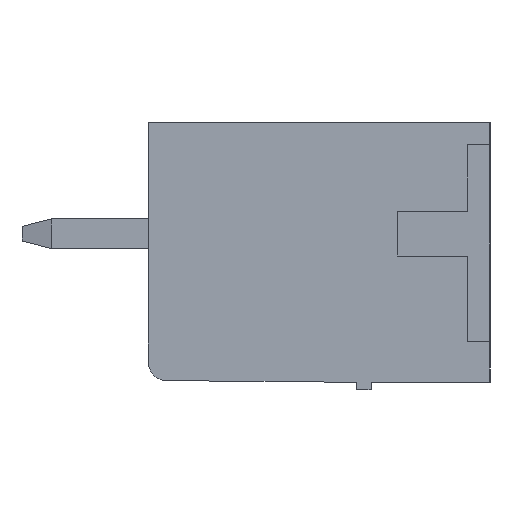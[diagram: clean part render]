
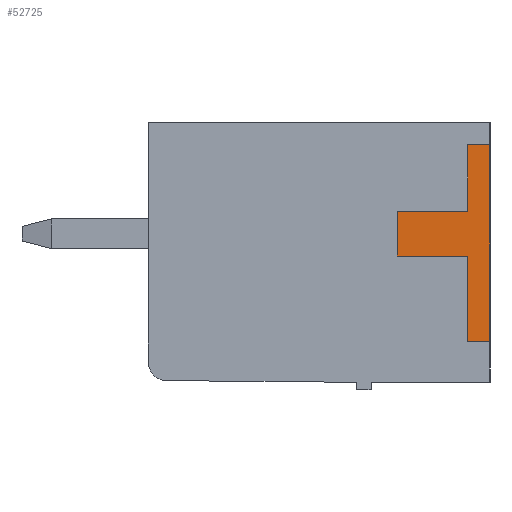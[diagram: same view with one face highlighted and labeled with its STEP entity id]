
A CAD part, left-side view. The second image highlights one B-rep face of the part: STEP entity #52725.
In plain terms, the highlighted planar face has unit normal (-1, 0, 0).
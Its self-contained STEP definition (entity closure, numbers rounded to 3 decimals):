
#100 = PLANE('',#101);
#101 = AXIS2_PLACEMENT_3D('',#102,#103,#104);
#102 = CARTESIAN_POINT('',(0.,0.,7.));
#103 = DIRECTION('',(0.,-1.,0.));
#104 = DIRECTION('',(0.,0.,-1.));
#128 = PLANE('',#129);
#129 = AXIS2_PLACEMENT_3D('',#130,#131,#132);
#130 = CARTESIAN_POINT('',(0.,0.,6.4));
#131 = DIRECTION('',(0.,0.,1.));
#132 = DIRECTION('',(0.,1.,0.));
#156 = PLANE('',#157);
#157 = AXIS2_PLACEMENT_3D('',#158,#159,#160);
#158 = CARTESIAN_POINT('',(0.,0.6,6.4));
#159 = DIRECTION('',(0.,1.,0.));
#160 = DIRECTION('',(0.,0.,-1.));
#184 = PLANE('',#185);
#185 = AXIS2_PLACEMENT_3D('',#186,#187,#188);
#186 = CARTESIAN_POINT('',(0.,0.6,4.6));
#187 = DIRECTION('',(0.,0.,1.));
#188 = DIRECTION('',(0.,1.,0.));
#212 = PLANE('',#213);
#213 = AXIS2_PLACEMENT_3D('',#214,#215,#216);
#214 = CARTESIAN_POINT('',(0.,2.5,4.6));
#215 = DIRECTION('',(0.,1.,0.));
#216 = DIRECTION('',(0.,0.,-1.));
#240 = PLANE('',#241);
#241 = AXIS2_PLACEMENT_3D('',#242,#243,#244);
#242 = CARTESIAN_POINT('',(0.,2.5,3.4));
#243 = DIRECTION('',(0.,0.,-1.));
#244 = DIRECTION('',(0.,-1.,0.));
#268 = PLANE('',#269);
#269 = AXIS2_PLACEMENT_3D('',#270,#271,#272);
#270 = CARTESIAN_POINT('',(0.,0.6,3.4));
#271 = DIRECTION('',(0.,1.,0.));
#272 = DIRECTION('',(0.,0.,-1.));
#296 = PLANE('',#297);
#297 = AXIS2_PLACEMENT_3D('',#298,#299,#300);
#298 = CARTESIAN_POINT('',(0.,0.6,1.1));
#299 = DIRECTION('',(0.,0.,-1.));
#300 = DIRECTION('',(0.,-1.,0.));
#6746 = VERTEX_POINT('',#6747);
#6747 = CARTESIAN_POINT('',(-0.2,0.,1.1));
#6768 = EDGE_CURVE('',#6746,#6769,#6771,.T.);
#6769 = VERTEX_POINT('',#6770);
#6770 = CARTESIAN_POINT('',(-0.2,0.,6.4));
#6771 = SURFACE_CURVE('',#6772,(#6776,#6783),.PCURVE_S1.);
#6772 = LINE('',#6773,#6774);
#6773 = CARTESIAN_POINT('',(-0.2,0.,1.1));
#6774 = VECTOR('',#6775,1.);
#6775 = DIRECTION('',(0.,0.,1.));
#6776 = PCURVE('',#100,#6777);
#6777 = DEFINITIONAL_REPRESENTATION('',(#6778),#6782);
#6778 = LINE('',#6779,#6780);
#6779 = CARTESIAN_POINT('',(5.9,-0.2));
#6780 = VECTOR('',#6781,1.);
#6781 = DIRECTION('',(-1.,0.));
#6782 = ( GEOMETRIC_REPRESENTATION_CONTEXT(2) 
PARAMETRIC_REPRESENTATION_CONTEXT() REPRESENTATION_CONTEXT('2D SPACE',''
  ) );
#6783 = PCURVE('',#6784,#6789);
#6784 = PLANE('',#6785);
#6785 = AXIS2_PLACEMENT_3D('',#6786,#6787,#6788);
#6786 = CARTESIAN_POINT('',(-0.2,0.,0.));
#6787 = DIRECTION('',(-1.,0.,0.));
#6788 = DIRECTION('',(0.,0.,1.));
#6789 = DEFINITIONAL_REPRESENTATION('',(#6790),#6794);
#6790 = LINE('',#6791,#6792);
#6791 = CARTESIAN_POINT('',(1.1,0.));
#6792 = VECTOR('',#6793,1.);
#6793 = DIRECTION('',(1.,0.));
#6794 = ( GEOMETRIC_REPRESENTATION_CONTEXT(2) 
PARAMETRIC_REPRESENTATION_CONTEXT() REPRESENTATION_CONTEXT('2D SPACE',''
  ) );
#52410 = VERTEX_POINT('',#52411);
#52411 = CARTESIAN_POINT('',(-0.2,0.6,1.1));
#52432 = EDGE_CURVE('',#52410,#6746,#52433,.T.);
#52433 = SURFACE_CURVE('',#52434,(#52438,#52445),.PCURVE_S1.);
#52434 = LINE('',#52435,#52436);
#52435 = CARTESIAN_POINT('',(-0.2,0.6,1.1));
#52436 = VECTOR('',#52437,1.);
#52437 = DIRECTION('',(0.,-1.,0.));
#52438 = PCURVE('',#296,#52439);
#52439 = DEFINITIONAL_REPRESENTATION('',(#52440),#52444);
#52440 = LINE('',#52441,#52442);
#52441 = CARTESIAN_POINT('',(0.,0.2));
#52442 = VECTOR('',#52443,1.);
#52443 = DIRECTION('',(1.,0.));
#52444 = ( GEOMETRIC_REPRESENTATION_CONTEXT(2) 
PARAMETRIC_REPRESENTATION_CONTEXT() REPRESENTATION_CONTEXT('2D SPACE',''
  ) );
#52445 = PCURVE('',#6784,#52446);
#52446 = DEFINITIONAL_REPRESENTATION('',(#52447),#52451);
#52447 = LINE('',#52448,#52449);
#52448 = CARTESIAN_POINT('',(1.1,0.6));
#52449 = VECTOR('',#52450,1.);
#52450 = DIRECTION('',(0.,-1.));
#52451 = ( GEOMETRIC_REPRESENTATION_CONTEXT(2) 
PARAMETRIC_REPRESENTATION_CONTEXT() REPRESENTATION_CONTEXT('2D SPACE',''
  ) );
#52459 = VERTEX_POINT('',#52460);
#52460 = CARTESIAN_POINT('',(-0.2,0.6,3.4));
#52481 = EDGE_CURVE('',#52459,#52410,#52482,.T.);
#52482 = SURFACE_CURVE('',#52483,(#52487,#52494),.PCURVE_S1.);
#52483 = LINE('',#52484,#52485);
#52484 = CARTESIAN_POINT('',(-0.2,0.6,3.4));
#52485 = VECTOR('',#52486,1.);
#52486 = DIRECTION('',(0.,0.,-1.));
#52487 = PCURVE('',#268,#52488);
#52488 = DEFINITIONAL_REPRESENTATION('',(#52489),#52493);
#52489 = LINE('',#52490,#52491);
#52490 = CARTESIAN_POINT('',(0.,0.2));
#52491 = VECTOR('',#52492,1.);
#52492 = DIRECTION('',(1.,0.));
#52493 = ( GEOMETRIC_REPRESENTATION_CONTEXT(2) 
PARAMETRIC_REPRESENTATION_CONTEXT() REPRESENTATION_CONTEXT('2D SPACE',''
  ) );
#52494 = PCURVE('',#6784,#52495);
#52495 = DEFINITIONAL_REPRESENTATION('',(#52496),#52500);
#52496 = LINE('',#52497,#52498);
#52497 = CARTESIAN_POINT('',(3.4,0.6));
#52498 = VECTOR('',#52499,1.);
#52499 = DIRECTION('',(-1.,0.));
#52500 = ( GEOMETRIC_REPRESENTATION_CONTEXT(2) 
PARAMETRIC_REPRESENTATION_CONTEXT() REPRESENTATION_CONTEXT('2D SPACE',''
  ) );
#52508 = VERTEX_POINT('',#52509);
#52509 = CARTESIAN_POINT('',(-0.2,2.5,3.4));
#52530 = EDGE_CURVE('',#52508,#52459,#52531,.T.);
#52531 = SURFACE_CURVE('',#52532,(#52536,#52543),.PCURVE_S1.);
#52532 = LINE('',#52533,#52534);
#52533 = CARTESIAN_POINT('',(-0.2,2.5,3.4));
#52534 = VECTOR('',#52535,1.);
#52535 = DIRECTION('',(0.,-1.,0.));
#52536 = PCURVE('',#240,#52537);
#52537 = DEFINITIONAL_REPRESENTATION('',(#52538),#52542);
#52538 = LINE('',#52539,#52540);
#52539 = CARTESIAN_POINT('',(0.,0.2));
#52540 = VECTOR('',#52541,1.);
#52541 = DIRECTION('',(1.,0.));
#52542 = ( GEOMETRIC_REPRESENTATION_CONTEXT(2) 
PARAMETRIC_REPRESENTATION_CONTEXT() REPRESENTATION_CONTEXT('2D SPACE',''
  ) );
#52543 = PCURVE('',#6784,#52544);
#52544 = DEFINITIONAL_REPRESENTATION('',(#52545),#52549);
#52545 = LINE('',#52546,#52547);
#52546 = CARTESIAN_POINT('',(3.4,2.5));
#52547 = VECTOR('',#52548,1.);
#52548 = DIRECTION('',(0.,-1.));
#52549 = ( GEOMETRIC_REPRESENTATION_CONTEXT(2) 
PARAMETRIC_REPRESENTATION_CONTEXT() REPRESENTATION_CONTEXT('2D SPACE',''
  ) );
#52557 = VERTEX_POINT('',#52558);
#52558 = CARTESIAN_POINT('',(-0.2,2.5,4.6));
#52579 = EDGE_CURVE('',#52557,#52508,#52580,.T.);
#52580 = SURFACE_CURVE('',#52581,(#52585,#52592),.PCURVE_S1.);
#52581 = LINE('',#52582,#52583);
#52582 = CARTESIAN_POINT('',(-0.2,2.5,4.6));
#52583 = VECTOR('',#52584,1.);
#52584 = DIRECTION('',(0.,0.,-1.));
#52585 = PCURVE('',#212,#52586);
#52586 = DEFINITIONAL_REPRESENTATION('',(#52587),#52591);
#52587 = LINE('',#52588,#52589);
#52588 = CARTESIAN_POINT('',(0.,0.2));
#52589 = VECTOR('',#52590,1.);
#52590 = DIRECTION('',(1.,0.));
#52591 = ( GEOMETRIC_REPRESENTATION_CONTEXT(2) 
PARAMETRIC_REPRESENTATION_CONTEXT() REPRESENTATION_CONTEXT('2D SPACE',''
  ) );
#52592 = PCURVE('',#6784,#52593);
#52593 = DEFINITIONAL_REPRESENTATION('',(#52594),#52598);
#52594 = LINE('',#52595,#52596);
#52595 = CARTESIAN_POINT('',(4.6,2.5));
#52596 = VECTOR('',#52597,1.);
#52597 = DIRECTION('',(-1.,0.));
#52598 = ( GEOMETRIC_REPRESENTATION_CONTEXT(2) 
PARAMETRIC_REPRESENTATION_CONTEXT() REPRESENTATION_CONTEXT('2D SPACE',''
  ) );
#52606 = VERTEX_POINT('',#52607);
#52607 = CARTESIAN_POINT('',(-0.2,0.6,4.6));
#52628 = EDGE_CURVE('',#52606,#52557,#52629,.T.);
#52629 = SURFACE_CURVE('',#52630,(#52634,#52641),.PCURVE_S1.);
#52630 = LINE('',#52631,#52632);
#52631 = CARTESIAN_POINT('',(-0.2,0.6,4.6));
#52632 = VECTOR('',#52633,1.);
#52633 = DIRECTION('',(0.,1.,0.));
#52634 = PCURVE('',#184,#52635);
#52635 = DEFINITIONAL_REPRESENTATION('',(#52636),#52640);
#52636 = LINE('',#52637,#52638);
#52637 = CARTESIAN_POINT('',(0.,0.2));
#52638 = VECTOR('',#52639,1.);
#52639 = DIRECTION('',(1.,0.));
#52640 = ( GEOMETRIC_REPRESENTATION_CONTEXT(2) 
PARAMETRIC_REPRESENTATION_CONTEXT() REPRESENTATION_CONTEXT('2D SPACE',''
  ) );
#52641 = PCURVE('',#6784,#52642);
#52642 = DEFINITIONAL_REPRESENTATION('',(#52643),#52647);
#52643 = LINE('',#52644,#52645);
#52644 = CARTESIAN_POINT('',(4.6,0.6));
#52645 = VECTOR('',#52646,1.);
#52646 = DIRECTION('',(0.,1.));
#52647 = ( GEOMETRIC_REPRESENTATION_CONTEXT(2) 
PARAMETRIC_REPRESENTATION_CONTEXT() REPRESENTATION_CONTEXT('2D SPACE',''
  ) );
#52655 = VERTEX_POINT('',#52656);
#52656 = CARTESIAN_POINT('',(-0.2,0.6,6.4));
#52677 = EDGE_CURVE('',#52655,#52606,#52678,.T.);
#52678 = SURFACE_CURVE('',#52679,(#52683,#52690),.PCURVE_S1.);
#52679 = LINE('',#52680,#52681);
#52680 = CARTESIAN_POINT('',(-0.2,0.6,6.4));
#52681 = VECTOR('',#52682,1.);
#52682 = DIRECTION('',(0.,0.,-1.));
#52683 = PCURVE('',#156,#52684);
#52684 = DEFINITIONAL_REPRESENTATION('',(#52685),#52689);
#52685 = LINE('',#52686,#52687);
#52686 = CARTESIAN_POINT('',(0.,0.2));
#52687 = VECTOR('',#52688,1.);
#52688 = DIRECTION('',(1.,0.));
#52689 = ( GEOMETRIC_REPRESENTATION_CONTEXT(2) 
PARAMETRIC_REPRESENTATION_CONTEXT() REPRESENTATION_CONTEXT('2D SPACE',''
  ) );
#52690 = PCURVE('',#6784,#52691);
#52691 = DEFINITIONAL_REPRESENTATION('',(#52692),#52696);
#52692 = LINE('',#52693,#52694);
#52693 = CARTESIAN_POINT('',(6.4,0.6));
#52694 = VECTOR('',#52695,1.);
#52695 = DIRECTION('',(-1.,0.));
#52696 = ( GEOMETRIC_REPRESENTATION_CONTEXT(2) 
PARAMETRIC_REPRESENTATION_CONTEXT() REPRESENTATION_CONTEXT('2D SPACE',''
  ) );
#52704 = EDGE_CURVE('',#6769,#52655,#52705,.T.);
#52705 = SURFACE_CURVE('',#52706,(#52710,#52717),.PCURVE_S1.);
#52706 = LINE('',#52707,#52708);
#52707 = CARTESIAN_POINT('',(-0.2,0.,6.4));
#52708 = VECTOR('',#52709,1.);
#52709 = DIRECTION('',(0.,1.,0.));
#52710 = PCURVE('',#128,#52711);
#52711 = DEFINITIONAL_REPRESENTATION('',(#52712),#52716);
#52712 = LINE('',#52713,#52714);
#52713 = CARTESIAN_POINT('',(0.,0.2));
#52714 = VECTOR('',#52715,1.);
#52715 = DIRECTION('',(1.,0.));
#52716 = ( GEOMETRIC_REPRESENTATION_CONTEXT(2) 
PARAMETRIC_REPRESENTATION_CONTEXT() REPRESENTATION_CONTEXT('2D SPACE',''
  ) );
#52717 = PCURVE('',#6784,#52718);
#52718 = DEFINITIONAL_REPRESENTATION('',(#52719),#52723);
#52719 = LINE('',#52720,#52721);
#52720 = CARTESIAN_POINT('',(6.4,0.));
#52721 = VECTOR('',#52722,1.);
#52722 = DIRECTION('',(0.,1.));
#52723 = ( GEOMETRIC_REPRESENTATION_CONTEXT(2) 
PARAMETRIC_REPRESENTATION_CONTEXT() REPRESENTATION_CONTEXT('2D SPACE',''
  ) );
#52725 = ADVANCED_FACE('',(#52726),#6784,.T.);
#52726 = FACE_BOUND('',#52727,.F.);
#52727 = EDGE_LOOP('',(#52728,#52729,#52730,#52731,#52732,#52733,#52734,
    #52735));
#52728 = ORIENTED_EDGE('',*,*,#52704,.F.);
#52729 = ORIENTED_EDGE('',*,*,#6768,.F.);
#52730 = ORIENTED_EDGE('',*,*,#52432,.F.);
#52731 = ORIENTED_EDGE('',*,*,#52481,.F.);
#52732 = ORIENTED_EDGE('',*,*,#52530,.F.);
#52733 = ORIENTED_EDGE('',*,*,#52579,.F.);
#52734 = ORIENTED_EDGE('',*,*,#52628,.F.);
#52735 = ORIENTED_EDGE('',*,*,#52677,.F.);
